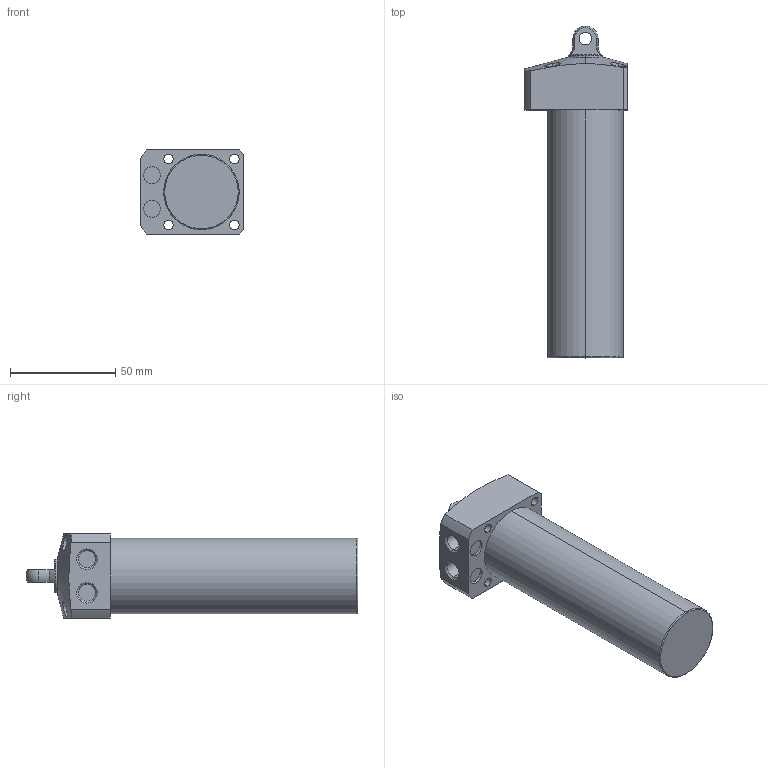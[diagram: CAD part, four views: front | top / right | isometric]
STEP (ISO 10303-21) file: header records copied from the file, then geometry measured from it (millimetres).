
FILE_DESCRIPTION (( 'STEP AP203' ), '1' );
FILE_NAME ('CLL036-CP-095.STEP', '2017-05-17T06:27:24', ( '' ), ( '' ), 'SwSTEP 2.0', 'SolidWorks 2015', '' );
FILE_SCHEMA (( 'CONFIG_CONTROL_DESIGN' ));
Length unit declared in the file: millimetre
Products named in the file (1): CLL036-CP-095
Bounding box: 49 x 158 x 40 mm (x, y, z)
Volume: 161498.1 mm3; surface area: 23393.3 mm2
Topology: 1 solids, 1 shells, 67 faces, 162 edges, 105 vertices
Faces by surface type: cylinder 34, plane 21, cone 8, sphere 2, torus 2
Entity records: 2347 total; most frequent: CARTESIAN_POINT 663, DIRECTION 354, ORIENTED_EDGE 316, EDGE_CURVE 158, AXIS2_PLACEMENT_3D 148, VERTEX_POINT 103, EDGE_LOOP 87, CIRCLE 80
